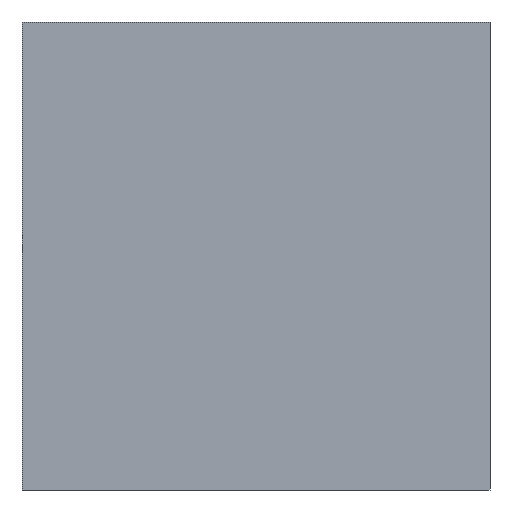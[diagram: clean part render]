
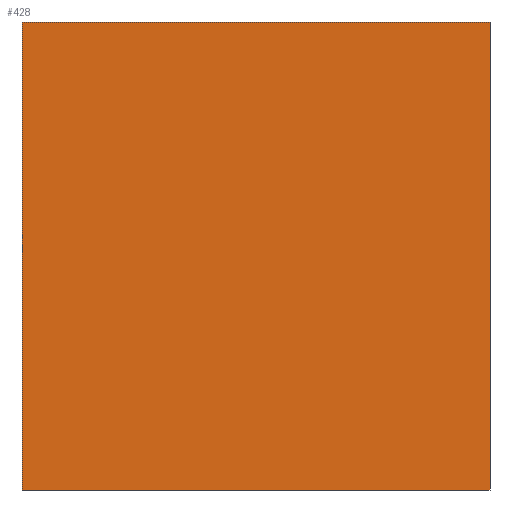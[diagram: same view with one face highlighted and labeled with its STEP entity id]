
A CAD part, front view. The second image highlights one B-rep face of the part: STEP entity #428.
In plain terms, the highlighted planar face has unit normal (0, -1, 0).
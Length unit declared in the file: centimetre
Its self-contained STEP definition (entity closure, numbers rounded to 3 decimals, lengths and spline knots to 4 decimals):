
#5 = CARTESIAN_POINT ( 'NONE',  ( 1000., 0., 0. ) ) ;
#23 = DIRECTION ( 'NONE',  ( 1., 0., 0. ) ) ;
#24 = EDGE_CURVE ( 'NONE', #194, #692, #328, .T. ) ;
#34 = EDGE_CURVE ( 'NONE', #692, #280, #271, .T. ) ;
#51 = VECTOR ( 'NONE', #446, 100. ) ;
#97 = PLANE ( 'NONE',  #106 ) ;
#106 = AXIS2_PLACEMENT_3D ( 'NONE', #287, #402, #720 ) ;
#112 = CARTESIAN_POINT ( 'NONE',  ( 1000., 0., 1000. ) ) ;
#164 = ORIENTED_EDGE ( 'NONE', *, *, #542, .F. ) ;
#185 = VECTOR ( 'NONE', #23, 100. ) ;
#194 = VERTEX_POINT ( 'NONE', #663 ) ;
#196 = EDGE_CURVE ( 'NONE', #335, #280, #612, .T. ) ;
#213 = FACE_OUTER_BOUND ( 'NONE', #638, .T. ) ;
#232 = DIRECTION ( 'NONE',  ( 0., 0., -1. ) ) ;
#270 = LINE ( 'NONE', #662, #185 ) ;
#271 = LINE ( 'NONE', #584, #51 ) ;
#280 = VERTEX_POINT ( 'NONE', #5 ) ;
#287 = CARTESIAN_POINT ( 'NONE',  ( 0., 0., 1000. ) ) ;
#328 = LINE ( 'NONE', #571, #419 ) ;
#335 = VERTEX_POINT ( 'NONE', #548 ) ;
#366 = ORIENTED_EDGE ( 'NONE', *, *, #24, .T. ) ;
#400 = DIRECTION ( 'NONE',  ( 0., 0., -1. ) ) ;
#402 = DIRECTION ( 'NONE',  ( 0., 1., 0. ) ) ;
#419 = VECTOR ( 'NONE', #400, 100. ) ;
#428 = ADVANCED_FACE ( 'NONE', ( #213 ), #97, .F. ) ;
#445 = ORIENTED_EDGE ( 'NONE', *, *, #34, .T. ) ;
#446 = DIRECTION ( 'NONE',  ( 1., 0., 0. ) ) ;
#487 = ORIENTED_EDGE ( 'NONE', *, *, #196, .F. ) ;
#519 = VECTOR ( 'NONE', #232, 100. ) ;
#542 = EDGE_CURVE ( 'NONE', #194, #335, #270, .T. ) ;
#548 = CARTESIAN_POINT ( 'NONE',  ( 1000., 0., 1000. ) ) ;
#557 = CARTESIAN_POINT ( 'NONE',  ( 0., 0., 0. ) ) ;
#571 = CARTESIAN_POINT ( 'NONE',  ( 0., 0., 1000. ) ) ;
#584 = CARTESIAN_POINT ( 'NONE',  ( 0., 0., 0. ) ) ;
#612 = LINE ( 'NONE', #112, #519 ) ;
#638 = EDGE_LOOP ( 'NONE', ( #445, #487, #164, #366 ) ) ;
#662 = CARTESIAN_POINT ( 'NONE',  ( 0., 0., 1000. ) ) ;
#663 = CARTESIAN_POINT ( 'NONE',  ( 0., 0., 1000. ) ) ;
#692 = VERTEX_POINT ( 'NONE', #557 ) ;
#720 = DIRECTION ( 'NONE',  ( 0., 0., 1. ) ) ;
